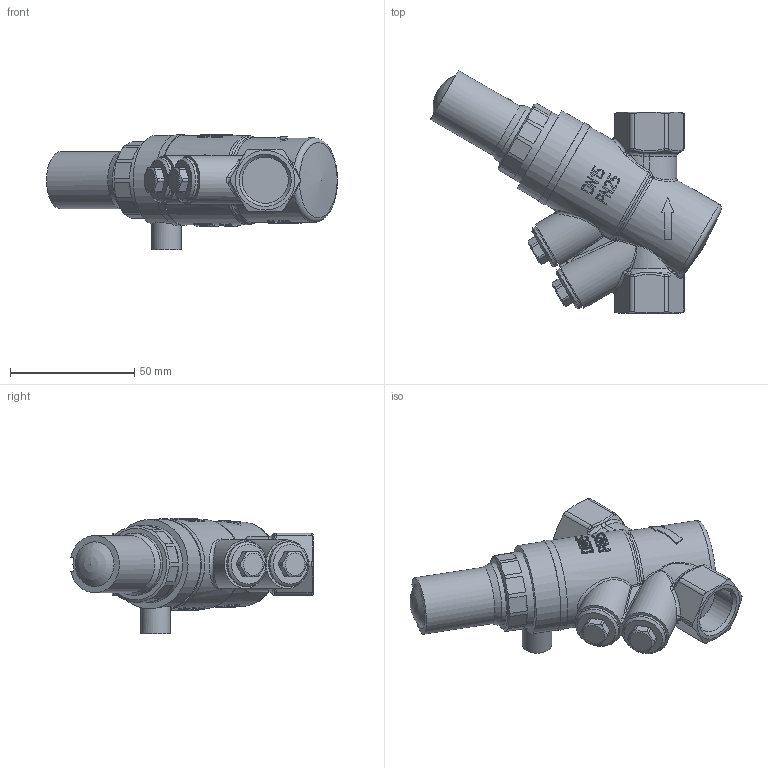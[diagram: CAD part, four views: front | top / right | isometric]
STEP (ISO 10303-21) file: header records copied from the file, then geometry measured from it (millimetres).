
FILE_DESCRIPTION(('STEP AP203'), '1');
FILE_NAME('VT.043.G.0401', '2024-09-18T06:33:23', ('User'), ('Vesta'), 'C3D Converter', 'C3D Toolkit', '');
FILE_SCHEMA(('CONFIG_CONTROL_DESIGN'));
Length unit declared in the file: millimetre
Products named in the file (1):  СБ
Bounding box: 117.14 x 97.66 x 46.5 mm (x, y, z)
Volume: 126077.6 mm3; surface area: 22539.3 mm2
Topology: 1 solids, 3 shells, 827 faces, 2227 edges, 1449 vertices
Faces by surface type: extrusion 329, plane 274, bspline 105, cylinder 92, cone 17, torus 9, sphere 1
Full cylindrical faces by diameter (mm): 6.647 x1, 9.087 x1, 11.9 x1, 16.2 x2, 18 x2, 18.632 x2, 23 x1, 25 x1, 31 x1, 36 x1, 36.6 x1
Entity records: 50675 total; most frequent: CARTESIAN_POINT 32701, ORIENTED_EDGE 4396, DIRECTION 2370, EDGE_CURVE 2198, VERTEX_POINT 1447, B_SPLINE_CURVE_WITH_KNOTS 1333, VECTOR 1096, EDGE_LOOP 897
